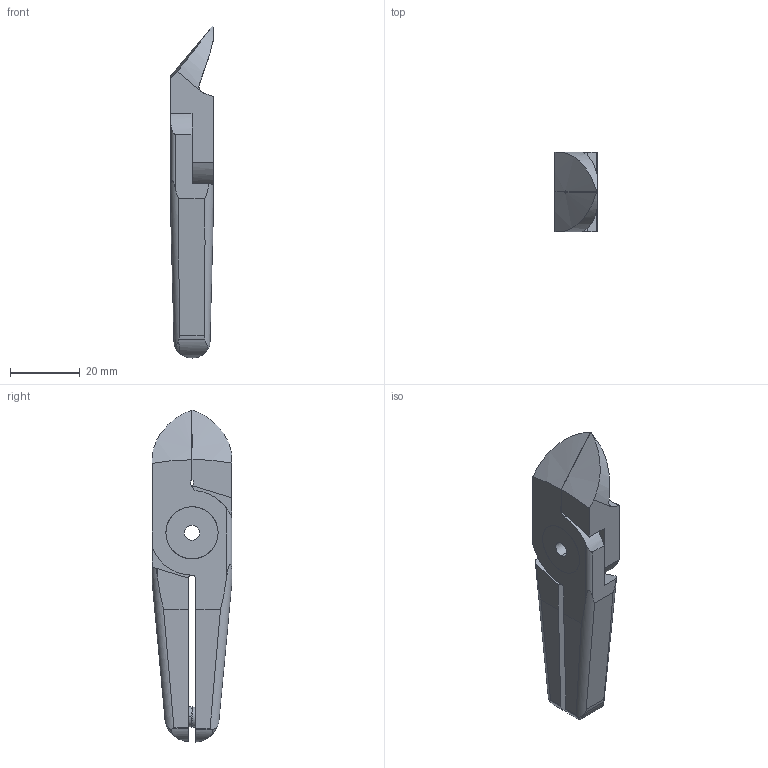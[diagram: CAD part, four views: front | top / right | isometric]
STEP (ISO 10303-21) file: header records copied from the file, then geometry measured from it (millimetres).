
FILE_DESCRIPTION (( 'STEP AP214' ), '1' );
FILE_NAME ('0608.STEP', '2012-03-27T19:38:22', ( 'User' ), ( 'EMI' ), 'SwSTEP 2.0', 'SolidWorks 2009', '' );
FILE_SCHEMA (( 'AUTOMOTIVE_DESIGN' ));
Length unit declared in the file: millimetre
Products named in the file (1): 0608
Bounding box: 12.08 x 22.88 x 95.33 mm (x, y, z)
Volume: 17163.5 mm3; surface area: 9282.8 mm2
Topology: 3 solids, 3 shells, 107 faces, 303 edges, 206 vertices
Faces by surface type: plane 52, cylinder 50, bspline 5
Entity records: 4885 total; most frequent: CARTESIAN_POINT 2373, ORIENTED_EDGE 606, DIRECTION 378, EDGE_CURVE 303, VERTEX_POINT 206, B_SPLINE_CURVE_WITH_KNOTS 162, AXIS2_PLACEMENT_3D 136, EDGE_LOOP 117
